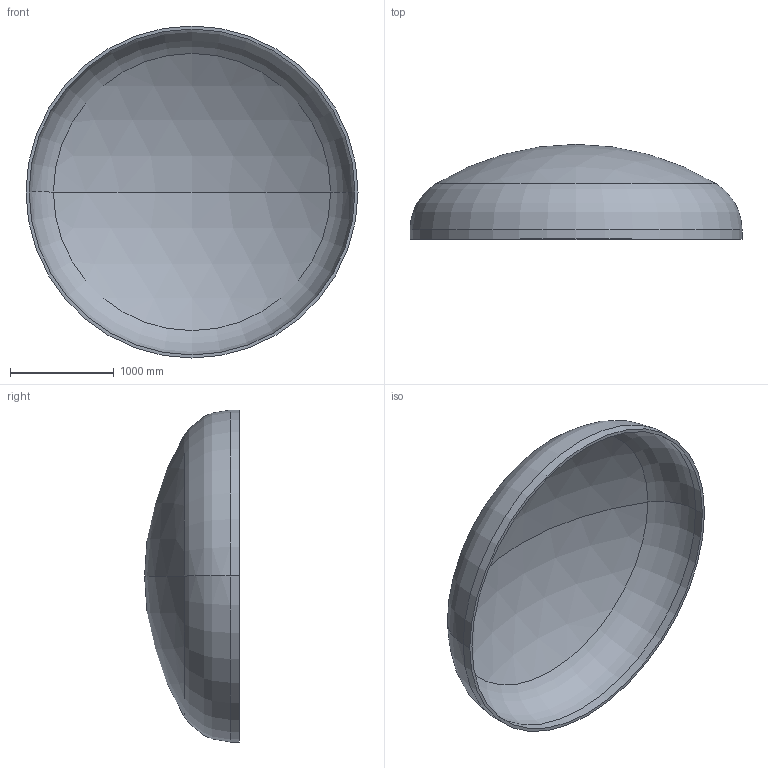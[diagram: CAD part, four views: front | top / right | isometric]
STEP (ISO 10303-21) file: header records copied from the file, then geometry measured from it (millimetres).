
FILE_DESCRIPTION (( 'STEP AP203' ), '1' );
FILE_NAME ('DIN 28013 Korbbogenform_-_Boden DIN 28013 - 3200 x 90 - I - s=30.step', '2016-07-01T18:30:12', ( '' ), ( '' ), 'SwSTEP 2.0', 'SolidWorks 2013', '' );
FILE_SCHEMA (( 'CONFIG_CONTROL_DESIGN' ));
Length unit declared in the file: millimetre
Products named in the file (1): DIN 28013 Korbbogenform_-_Boden DIN 28013 - 3200 x 90 - I - s=30
Bounding box: 3200 x 914.07 x 3200 mm (x, y, z)
Volume: 356565922.4 mm3; surface area: 24071703 mm2
Topology: 1 solids, 1 shells, 13 faces, 24 edges, 14 vertices
Faces by surface type: torus 4, cylinder 4, sphere 4, plane 1
Entity records: 407 total; most frequent: DIRECTION 72, CARTESIAN_POINT 52, ORIENTED_EDGE 48, AXIS2_PLACEMENT_3D 34, EDGE_CURVE 24, CIRCLE 20, VERTEX_POINT 14, EDGE_LOOP 14
